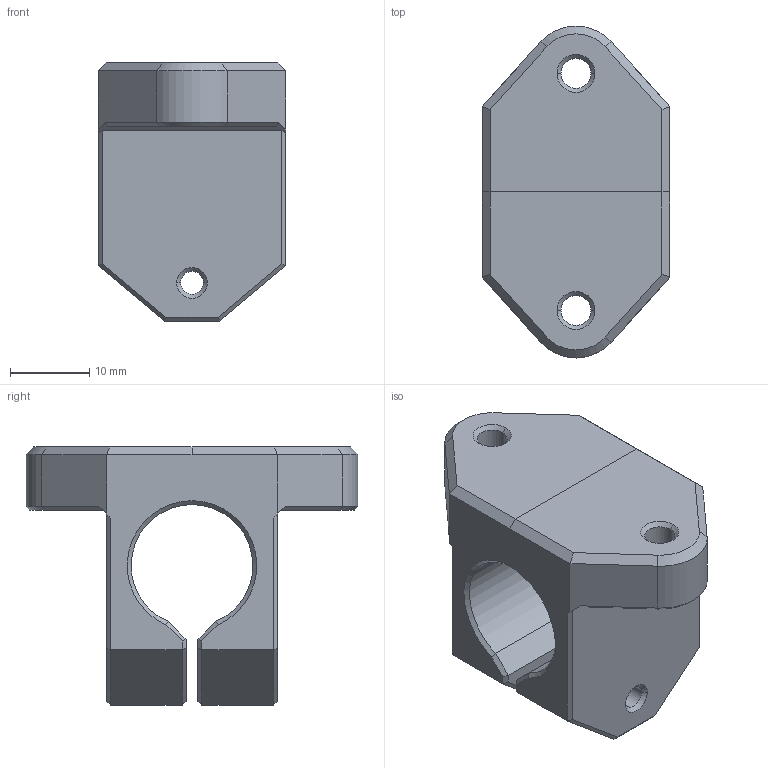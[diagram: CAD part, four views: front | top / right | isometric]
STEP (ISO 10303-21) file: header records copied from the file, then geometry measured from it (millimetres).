
FILE_DESCRIPTION(('CATIA V5 STEP Exchange'),'2;1');
FILE_NAME('D:\_이전 노트북\Cremaker모델링\Cremaker_profile-Metal(5차)-(Final)\bed-guide-block.stp','2020-10-23T05:14:56+00:00',('none'),('none'),'CATIA Version 5 Release 20 GA (IN-10)','CATIA V5 STEP AP203','none');
FILE_SCHEMA(('CONFIG_CONTROL_DESIGN'));
Length unit declared in the file: millimetre
Products named in the file (1): Bed-guide-block
Bounding box: 23.75 x 42 x 32.66 mm (x, y, z)
Volume: 12471.6 mm3; surface area: 5579.5 mm2
Topology: 1 solids, 1 shells, 103 faces, 251 edges, 152 vertices
Faces by surface type: plane 74, cone 18, cylinder 11
Entity records: 2871 total; most frequent: CARTESIAN_POINT 543, ORIENTED_EDGE 502, DIRECTION 397, EDGE_CURVE 251, VECTOR 171, LINE 171, VERTEX_POINT 152, AXIS2_PLACEMENT_3D 134
